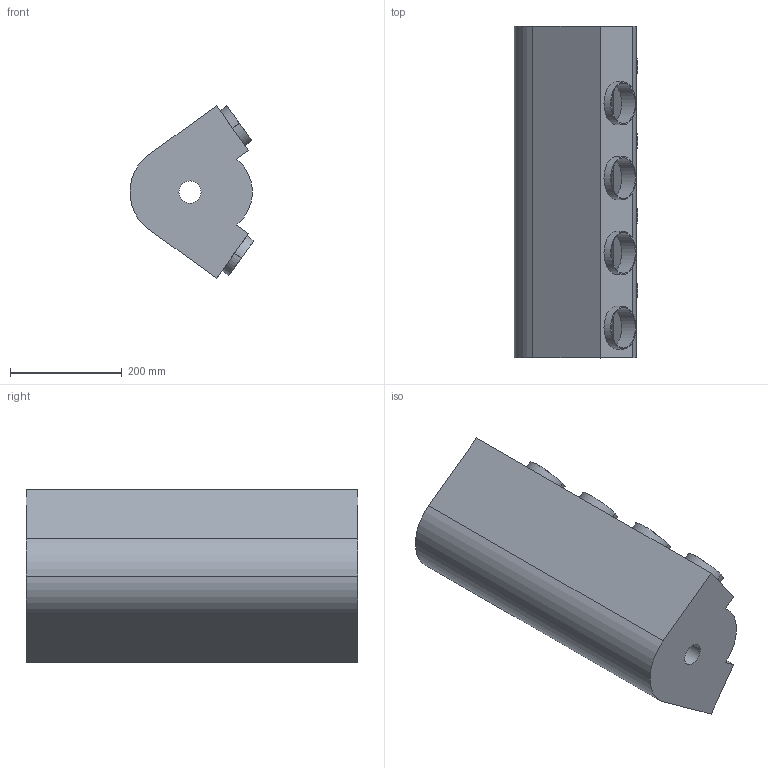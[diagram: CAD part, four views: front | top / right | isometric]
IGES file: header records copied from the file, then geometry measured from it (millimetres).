
Start section: START RECORD GO HERE.
Global section: file name: engine box.igs; native system: IBM CATIA IGES - CATIA Version 5 Release 19 ; preprocessor: CATIA Version 5 Release 19 ; author: ABHIJEET; organization: ABHIJEET-PC; date: 20111019.223301; units: millimetre
Bounding box: 221.69 x 595 x 309.3 mm (x, y, z)
Surface area: 1320443.4 mm2 (no closed solid volume)
Topology: 0 solids, 0 shells, 98 faces, 516 edges, 516 vertices
Faces by surface type: revolution 62, plane 36
